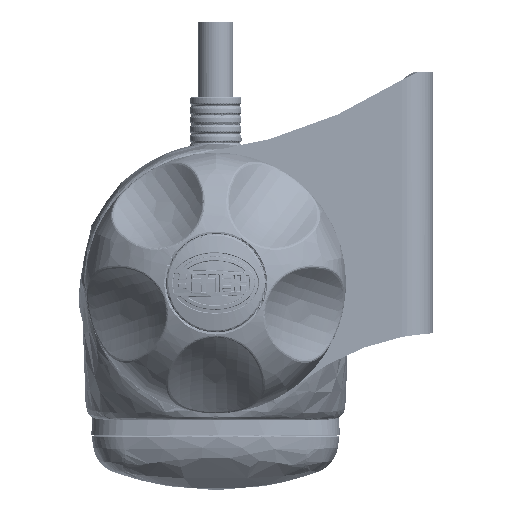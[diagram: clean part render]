
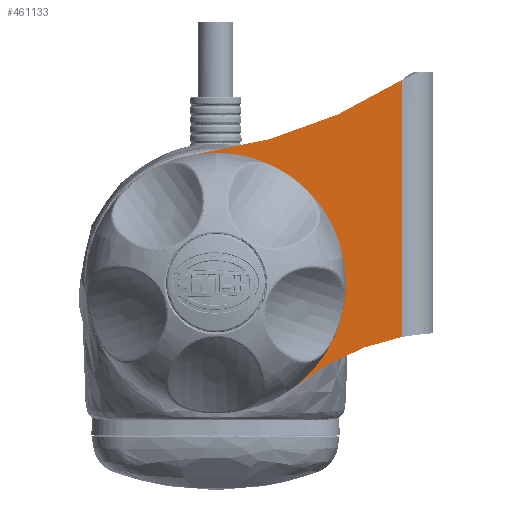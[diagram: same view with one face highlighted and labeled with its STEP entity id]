
A CAD part, left-side view. The second image highlights one B-rep face of the part: STEP entity #461133.
In plain terms, the highlighted planar face has unit normal (-1, 0, 0).
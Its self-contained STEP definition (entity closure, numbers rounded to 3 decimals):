
#461075=AXIS2_PLACEMENT_3D('Plane Axis2P3D',#461072,#461073,#461074) ;
#460955=CARTESIAN_POINT('Vertex',(-246.893,6.985,20.)) ;
#460959=CARTESIAN_POINT('Control Point',(-246.893,6.985,20.)) ;
#460960=CARTESIAN_POINT('Control Point',(-246.893,6.985,18.9)) ;
#460961=CARTESIAN_POINT('Control Point',(-246.893,6.769,17.801)) ;
#460962=CARTESIAN_POINT('Control Point',(-246.893,6.337,16.758)) ;
#460963=CARTESIAN_POINT('Control Point',(-246.893,5.087,14.898)) ;
#460964=CARTESIAN_POINT('Control Point',(-246.893,3.227,13.648)) ;
#460965=CARTESIAN_POINT('Control Point',(-246.893,2.184,13.216)) ;
#460966=CARTESIAN_POINT('Control Point',(-246.893,-0.015,12.784)) ;
#460967=CARTESIAN_POINT('Control Point',(-246.893,-2.214,13.216)) ;
#460968=CARTESIAN_POINT('Control Point',(-246.893,-3.257,13.648)) ;
#460969=CARTESIAN_POINT('Control Point',(-246.893,-5.118,14.898)) ;
#460970=CARTESIAN_POINT('Control Point',(-246.893,-6.367,16.758)) ;
#460971=CARTESIAN_POINT('Control Point',(-246.893,-6.799,17.801)) ;
#460972=CARTESIAN_POINT('Control Point',(-246.893,-7.015,18.9)) ;
#460973=CARTESIAN_POINT('Control Point',(-246.893,-7.015,20.)) ;
#460974=CARTESIAN_POINT('Vertex',(-246.893,-7.015,20.)) ;
#461007=CARTESIAN_POINT('Vertex',(-246.893,-30.015,11.335)) ;
#461011=CARTESIAN_POINT('Control Point',(-246.893,-13.016,3.508)) ;
#461012=CARTESIAN_POINT('Control Point',(-246.893,-16.725,6.432)) ;
#461013=CARTESIAN_POINT('Control Point',(-246.893,-20.894,8.772)) ;
#461014=CARTESIAN_POINT('Control Point',(-246.893,-25.383,10.418)) ;
#461015=CARTESIAN_POINT('Control Point',(-246.893,-30.015,11.335)) ;
#461016=CARTESIAN_POINT('Vertex',(-246.893,-13.016,3.508)) ;
#461036=CARTESIAN_POINT('Control Point',(-246.893,-30.015,52.684)) ;
#461037=CARTESIAN_POINT('Control Point',(-246.893,-22.622,47.976)) ;
#461038=CARTESIAN_POINT('Control Point',(-246.893,-14.54,44.348)) ;
#461039=CARTESIAN_POINT('Control Point',(-246.893,-6.011,41.952)) ;
#461040=CARTESIAN_POINT('Control Point',(-246.893,2.682,40.826)) ;
#461041=CARTESIAN_POINT('Vertex',(-246.893,-30.015,52.684)) ;
#461043=CARTESIAN_POINT('Vertex',(-246.893,2.682,40.826)) ;
#461072=CARTESIAN_POINT('Axis2P3D Location',(-246.893,-37.78,-27.904)) ;
#461078=CARTESIAN_POINT('Control Point',(-246.893,-30.015,11.335)) ;
#461079=CARTESIAN_POINT('Control Point',(-246.893,-30.015,52.684)) ;
#461082=CARTESIAN_POINT('Control Point',(-246.893,2.682,40.826)) ;
#461083=CARTESIAN_POINT('Control Point',(-246.893,4.133,40.638)) ;
#461084=CARTESIAN_POINT('Control Point',(-246.893,7.152,39.921)) ;
#461085=CARTESIAN_POINT('Control Point',(-246.893,11.411,37.844)) ;
#461086=CARTESIAN_POINT('Control Point',(-246.893,15.29,34.672)) ;
#461087=CARTESIAN_POINT('Control Point',(-246.893,18.212,30.794)) ;
#461088=CARTESIAN_POINT('Control Point',(-246.893,20.177,26.364)) ;
#461089=CARTESIAN_POINT('Control Point',(-246.893,21.104,21.717)) ;
#461090=CARTESIAN_POINT('Control Point',(-246.893,20.93,16.71)) ;
#461091=CARTESIAN_POINT('Control Point',(-246.893,19.615,12.036)) ;
#461092=CARTESIAN_POINT('Control Point',(-246.893,17.279,7.789)) ;
#461093=CARTESIAN_POINT('Control Point',(-246.893,14.144,4.236)) ;
#461094=CARTESIAN_POINT('Control Point',(-246.893,10.054,1.342)) ;
#461095=CARTESIAN_POINT('Control Point',(-246.893,5.539,-0.443)) ;
#461096=CARTESIAN_POINT('Control Point',(-246.893,0.745,-1.157)) ;
#461097=CARTESIAN_POINT('Control Point',(-246.893,-3.981,-0.814)) ;
#461098=CARTESIAN_POINT('Control Point',(-246.893,-8.762,0.686)) ;
#461099=CARTESIAN_POINT('Control Point',(-246.893,-11.654,2.435)) ;
#461100=CARTESIAN_POINT('Control Point',(-246.893,-13.016,3.508)) ;
#461109=CARTESIAN_POINT('Control Point',(-246.893,-7.015,20.)) ;
#461110=CARTESIAN_POINT('Control Point',(-246.893,-7.015,20.916)) ;
#461111=CARTESIAN_POINT('Control Point',(-246.893,-6.651,22.749)) ;
#461112=CARTESIAN_POINT('Control Point',(-246.893,-5.094,25.079)) ;
#461113=CARTESIAN_POINT('Control Point',(-246.893,-2.764,26.636)) ;
#461114=CARTESIAN_POINT('Control Point',(-246.893,-0.931,27.)) ;
#461115=CARTESIAN_POINT('Control Point',(-246.893,-0.015,27.)) ;
#461116=CARTESIAN_POINT('Vertex',(-246.893,-0.015,27.)) ;
#461120=CARTESIAN_POINT('Control Point',(-246.893,-0.015,27.)) ;
#461121=CARTESIAN_POINT('Control Point',(-246.893,0.901,27.)) ;
#461122=CARTESIAN_POINT('Control Point',(-246.893,2.733,26.636)) ;
#461123=CARTESIAN_POINT('Control Point',(-246.893,5.064,25.079)) ;
#461124=CARTESIAN_POINT('Control Point',(-246.893,6.621,22.749)) ;
#461125=CARTESIAN_POINT('Control Point',(-246.893,6.985,20.916)) ;
#461126=CARTESIAN_POINT('Control Point',(-246.893,6.985,20.)) ;
#461073=DIRECTION('Axis2P3D Direction',(1.,0.,0.)) ;
#461074=DIRECTION('Axis2P3D XDirection',(0.,1.,0.)) ;
#461103=ORIENTED_EDGE('',*,*,#461018,.T.) ;
#461104=ORIENTED_EDGE('',*,*,#461080,.T.) ;
#461105=ORIENTED_EDGE('',*,*,#461045,.T.) ;
#461106=ORIENTED_EDGE('',*,*,#461101,.T.) ;
#461129=ORIENTED_EDGE('',*,*,#461118,.F.) ;
#461130=ORIENTED_EDGE('',*,*,#460976,.F.) ;
#461131=ORIENTED_EDGE('',*,*,#461127,.F.) ;
#461132=FACE_BOUND('',#461128,.T.) ;
#461133=ADVANCED_FACE('958 139-09_001;1-35mm Pivot Bracket B - Anti Theft.1\\958 128-12_001;1-FOOT_B_Short.1\\Extrude (2)',(#461107,#461132),#461076,.F.) ;
#460958=B_SPLINE_CURVE_WITH_KNOTS('',5,(#460959,#460960,#460961,#460962,#460963,#460964,#460965,#460966,#460967,#460968,#460969,#460970,#460971,#460972,#460973),.UNSPECIFIED.,.F.,.U.,(6,3,3,3,6),(0.,0.25,0.5,0.75,1.),.UNSPECIFIED.) ;
#461010=B_SPLINE_CURVE_WITH_KNOTS('',4,(#461011,#461012,#461013,#461014,#461015),.UNSPECIFIED.,.F.,.U.,(5,5),(0.,1.),.UNSPECIFIED.) ;
#461035=B_SPLINE_CURVE_WITH_KNOTS('',4,(#461036,#461037,#461038,#461039,#461040),.UNSPECIFIED.,.F.,.U.,(5,5),(0.,1.),.UNSPECIFIED.) ;
#460976=EDGE_CURVE('',#460956,#460975,#460958,.T.) ;
#461018=EDGE_CURVE('',#461017,#461008,#461010,.T.) ;
#461045=EDGE_CURVE('',#461042,#461044,#461035,.T.) ;
#461080=EDGE_CURVE('',#461008,#461042,#461077,.T.) ;
#461101=EDGE_CURVE('',#461044,#461017,#461081,.T.) ;
#461118=EDGE_CURVE('',#460975,#461117,#461108,.T.) ;
#461127=EDGE_CURVE('',#461117,#460956,#461119,.T.) ;
#461102=EDGE_LOOP('',(#461103,#461104,#461105,#461106)) ;
#461128=EDGE_LOOP('',(#461129,#461130,#461131)) ;
#461107=FACE_OUTER_BOUND('',#461102,.T.) ;
#461076=PLANE('',#461075) ;
#460956=VERTEX_POINT('',#460955) ;
#460975=VERTEX_POINT('',#460974) ;
#461008=VERTEX_POINT('',#461007) ;
#461017=VERTEX_POINT('',#461016) ;
#461042=VERTEX_POINT('',#461041) ;
#461044=VERTEX_POINT('',#461043) ;
#461117=VERTEX_POINT('',#461116) ;
#461077=(BOUNDED_CURVE()B_SPLINE_CURVE(1,(#461078,#461079),.UNSPECIFIED.,.F.,.U.)B_SPLINE_CURVE_WITH_KNOTS((2,2),(0.,41.349),.UNSPECIFIED.)CURVE()GEOMETRIC_REPRESENTATION_ITEM()RATIONAL_B_SPLINE_CURVE((1.,1.))REPRESENTATION_ITEM('')) ;
#461081=(BOUNDED_CURVE()B_SPLINE_CURVE(3,(#461082,#461083,#461084,#461085,#461086,#461087,#461088,#461089,#461090,#461091,#461092,#461093,#461094,#461095,#461096,#461097,#461098,#461099,#461100),.UNSPECIFIED.,.F.,.U.)B_SPLINE_CURVE_WITH_KNOTS((4,1,1,1,1,1,1,1,1,1,1,1,1,1,1,1,4),(0.,4.42,9.318,14.21,19.446,23.865,28.763,33.656,38.891,43.311,48.209,53.102,58.337,62.756,67.655,72.547,77.783),.UNSPECIFIED.)CURVE()GEOMETRIC_REPRESENTATION_ITEM()RATIONAL_B_SPLINE_CURVE((1.,1.,1.,1.,1.,1.,1.,1.,1.,1.,1.,1.,1.,1.,1.,1.,1.,1.,1.))REPRESENTATION_ITEM('')) ;
#461108=(BOUNDED_CURVE()B_SPLINE_CURVE(3,(#461109,#461110,#461111,#461112,#461113,#461114,#461115),.UNSPECIFIED.,.F.,.U.)B_SPLINE_CURVE_WITH_KNOTS((4,1,1,1,4),(0.,2.793,5.587,8.38,11.174),.UNSPECIFIED.)CURVE()GEOMETRIC_REPRESENTATION_ITEM()RATIONAL_B_SPLINE_CURVE((1.,1.,1.,1.,1.,1.,1.))REPRESENTATION_ITEM('')) ;
#461119=(BOUNDED_CURVE()B_SPLINE_CURVE(3,(#461120,#461121,#461122,#461123,#461124,#461125,#461126),.UNSPECIFIED.,.F.,.U.)B_SPLINE_CURVE_WITH_KNOTS((4,1,1,1,4),(0.,2.793,5.587,8.38,11.174),.UNSPECIFIED.)CURVE()GEOMETRIC_REPRESENTATION_ITEM()RATIONAL_B_SPLINE_CURVE((1.,1.,1.,1.,1.,1.,1.))REPRESENTATION_ITEM('')) ;
